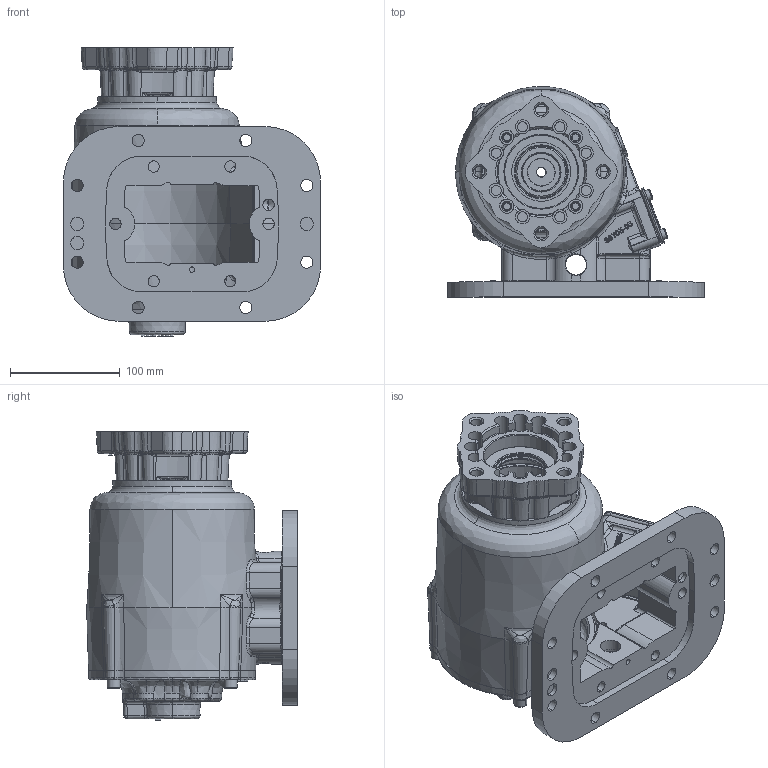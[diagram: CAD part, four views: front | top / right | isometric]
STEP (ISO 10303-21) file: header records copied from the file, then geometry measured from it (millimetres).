
FILE_DESCRIPTION (( 'STEP AP203' ), '1' );
FILE_NAME ('CS8S-XXXXX-E3DX.STEP', '2023-05-03T17:39:17', ( '' ), ( '' ), 'SwSTEP 2.0', 'SolidWorks 2021', '' );
FILE_SCHEMA (( 'CONFIG_CONTROL_DESIGN' ));
Products named in the file (9): 14T39406; 14TA4817_Config1; 15T36717; CS8S-XXXXX-E3DX; 19T35237; 01t37075a; 16T41119; 19T41118; 11T37795
Assembly tree (14 placements, depth 3):
  CS8S-XXXXX-E3DX
    01t37075a
    15T36717
    16T41119
    19T41118  x4
    19T35237  x4
    14TA4817_Config1
      14T39406
      11T37795
Bounding box: 234.7 x 192.11 x 263.64 mm (x, y, z)
Volume: 1544008 mm3; surface area: 445442.1 mm2
Topology: 13 solids, 14 shells, 2441 faces, 6319 edges, 3955 vertices
Faces by surface type: bspline 1029, plane 513, cylinder 484, cone 310, torus 105
Entity records: 164483 total; most frequent: CARTESIAN_POINT 114568, ORIENTED_EDGE 11930, DIRECTION 7215, EDGE_CURVE 5965, VERTEX_POINT 3769, AXIS2_PLACEMENT_3D 2614, B_SPLINE_CURVE_WITH_KNOTS 2592, EDGE_LOOP 2530
